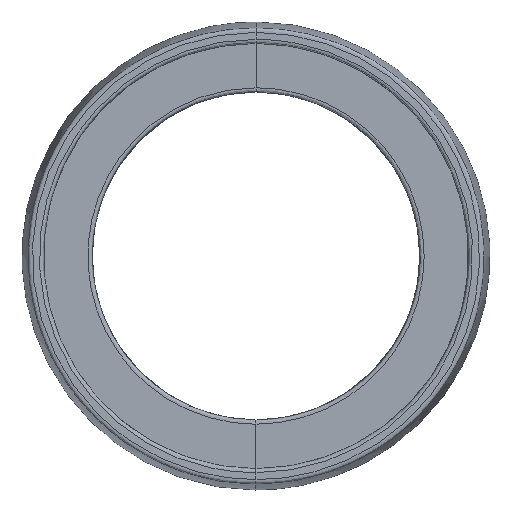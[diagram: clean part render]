
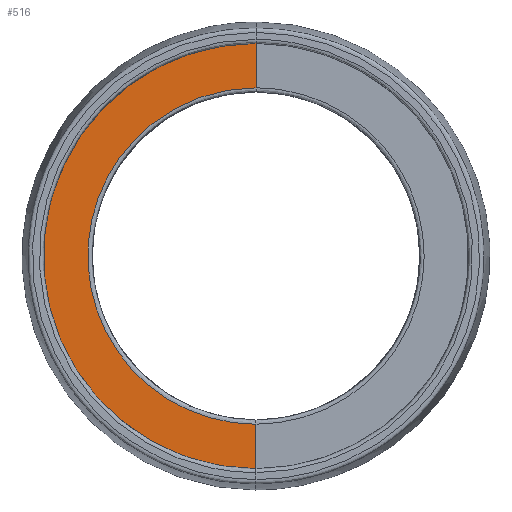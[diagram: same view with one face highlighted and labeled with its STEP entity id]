
A CAD part, front view. The second image highlights one B-rep face of the part: STEP entity #516.
In plain terms, the highlighted free-form (B-spline) face has degree [5, 1] with [21, 2] control points.
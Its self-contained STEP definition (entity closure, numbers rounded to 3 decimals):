
#66=ORIENTED_EDGE('trim curve',*,*,#256,.F.);
#67=ORIENTED_EDGE('trim curve',*,*,#244,.F.);
#68=ORIENTED_EDGE('trim curve',*,*,#258,.F.);
#69=ORIENTED_EDGE('trim curve',*,*,#259,.T.);
#189=VERTEX_POINT('Trimming Point',#1923);
#190=VERTEX_POINT('Trimming Point',#1934);
#198=VERTEX_POINT('Trimming Point',#3555);
#199=VERTEX_POINT('Trimming Point',#3586);
#244=EDGE_CURVE('Edge Curve',#190,#189,#324,.T.);
#256=EDGE_CURVE('Edge Curve',#189,#198,#336,.T.);
#258=EDGE_CURVE('Edge Curve',#199,#190,#338,.T.);
#259=EDGE_CURVE('Edge Curve',#199,#198,#339,.T.);
#324=(
BOUNDED_CURVE()
B_SPLINE_CURVE(5,(#2398,#2399,#2400,#2401,#2402,#2403,#2404,#2405,#2406,
#2407,#2408),.UNSPECIFIED.,.U.,.U.)
B_SPLINE_CURVE_WITH_KNOTS((6,5,6),(0.,1.571,3.142),
 .UNSPECIFIED.)
CURVE()
GEOMETRIC_REPRESENTATION_ITEM()
RATIONAL_B_SPLINE_CURVE((1.,0.883,0.824,0.824,
0.883,1.,0.883,0.824,0.824,
0.883,1.))
REPRESENTATION_ITEM('node')
);
#336=(
BOUNDED_CURVE()
B_SPLINE_CURVE(1,(#3554,#3555),.UNSPECIFIED.,.U.,.U.)
B_SPLINE_CURVE_WITH_KNOTS((2,2),(0.,0.915),.UNSPECIFIED.)
CURVE()
GEOMETRIC_REPRESENTATION_ITEM()
RATIONAL_B_SPLINE_CURVE((1.,1.))
REPRESENTATION_ITEM('node')
);
#338=(
BOUNDED_CURVE()
B_SPLINE_CURVE(1,(#3587,#3588),.UNSPECIFIED.,.U.,.U.)
B_SPLINE_CURVE_WITH_KNOTS((2,2),(0.,0.915),.UNSPECIFIED.)
CURVE()
GEOMETRIC_REPRESENTATION_ITEM()
RATIONAL_B_SPLINE_CURVE((1.,1.))
REPRESENTATION_ITEM('node')
);
#339=(
BOUNDED_CURVE()
B_SPLINE_CURVE(3,(#3631,#3632,#3633,#3634,#3635,#3636,#3637,#3638,#3639,
#3640,#3641,#3642,#3643,#3644,#3645,#3646,#3647,#3648,#3649,#3650,#3651,
#3652,#3653,#3654,#3655),.UNSPECIFIED.,.U.,.U.)
B_SPLINE_CURVE_WITH_KNOTS((4,3,3,3,3,3,3,3,4),(-2.637,-2.206,
-1.982,-1.828,-1.319,-1.203,
-0.664,-0.625,0.),.UNSPECIFIED.)
CURVE()
GEOMETRIC_REPRESENTATION_ITEM()
RATIONAL_B_SPLINE_CURVE((1.,0.979,0.979,1.,0.993,
0.993,1.,0.997,0.997,1.,0.97,
0.97,1.,0.999,0.999,1.,0.965,
0.965,1.,1.,1.,1.,0.955,
0.955,1.))
REPRESENTATION_ITEM('node')
);
#396=EDGE_LOOP('trim boundary',(#66,#67,#68,#69));
#436=FACE_OUTER_BOUND('Boundary Edges',#396,.T.);
#476=(
BOUNDED_SURFACE()
B_SPLINE_SURFACE(5,1,((#3589,#3590),(#3591,#3592),(#3593,#3594),(#3595,#3596),
(#3597,#3598),(#3599,#3600),(#3601,#3602),(#3603,#3604),(#3605,#3606),(#3607,
#3608),(#3609,#3610),(#3611,#3612),(#3613,#3614),(#3615,#3616),(#3617,#3618),
(#3619,#3620),(#3621,#3622),(#3623,#3624),(#3625,#3626),(#3627,#3628),(#3629,
#3630)),.UNSPECIFIED.,.U.,.U.,.U.)
B_SPLINE_SURFACE_WITH_KNOTS((6,5,5,5,6),(2,2),(0.,1.571,3.142,
4.712,6.283),(0.,1.),.UNSPECIFIED.)
GEOMETRIC_REPRESENTATION_ITEM()
RATIONAL_B_SPLINE_SURFACE(((1.,1.),(0.883,0.883),
(0.824,0.824),(0.824,0.824),
(0.883,0.883),(1.,1.),(0.883,0.883),
(0.824,0.824),(0.824,0.824),
(0.883,0.883),(1.,1.),(0.883,0.883),
(0.824,0.824),(0.824,0.824),
(0.883,0.883),(1.,1.),(0.883,0.883),
(0.824,0.824),(0.824,0.824),
(0.883,0.883),(1.,1.)))
REPRESENTATION_ITEM('trim region')
SURFACE()
);
#516=ADVANCED_FACE('trim region',(#436),#476,.T.);
#1923=CARTESIAN_POINT('CVs',(0.,-2.823,-10.93));
#1934=CARTESIAN_POINT('CVs',(0.,-2.823,10.93));
#2398=CARTESIAN_POINT('CVs',(0.,-2.823,10.93));
#2399=CARTESIAN_POINT('CVs',(-3.502,-2.823,10.93));
#2400=CARTESIAN_POINT('CVs',(-6.952,-2.823,9.604));
#2401=CARTESIAN_POINT('CVs',(-9.604,-2.823,6.952));
#2402=CARTESIAN_POINT('CVs',(-10.93,-2.823,3.502));
#2403=CARTESIAN_POINT('CVs',(-10.93,-2.823,0.));
#2404=CARTESIAN_POINT('CVs',(-10.93,-2.823,-3.502));
#2405=CARTESIAN_POINT('CVs',(-9.604,-2.823,-6.952));
#2406=CARTESIAN_POINT('CVs',(-6.952,-2.823,-9.604));
#2407=CARTESIAN_POINT('CVs',(-3.502,-2.823,-10.93));
#2408=CARTESIAN_POINT('CVs',(0.,-2.823,-10.93));
#3554=CARTESIAN_POINT('CVs',(0.,-2.823,-10.93));
#3555=CARTESIAN_POINT('CVs',(0.,-2.823,-8.642));
#3586=CARTESIAN_POINT('CVs',(0.,-2.823,8.642));
#3587=CARTESIAN_POINT('CVs',(0.,-2.823,8.642));
#3588=CARTESIAN_POINT('CVs',(0.,-2.823,10.93));
#3589=CARTESIAN_POINT('CVs',(0.,-2.823,10.93));
#3590=CARTESIAN_POINT('CVs',(0.,-2.823,8.43));
#3591=CARTESIAN_POINT('CVs',(3.502,-2.823,10.93));
#3592=CARTESIAN_POINT('CVs',(2.701,-2.823,8.43));
#3593=CARTESIAN_POINT('CVs',(6.952,-2.823,9.604));
#3594=CARTESIAN_POINT('CVs',(5.362,-2.823,7.407));
#3595=CARTESIAN_POINT('CVs',(9.604,-2.823,6.952));
#3596=CARTESIAN_POINT('CVs',(7.407,-2.823,5.362));
#3597=CARTESIAN_POINT('CVs',(10.93,-2.823,3.502));
#3598=CARTESIAN_POINT('CVs',(8.43,-2.823,2.701));
#3599=CARTESIAN_POINT('CVs',(10.93,-2.823,0.));
#3600=CARTESIAN_POINT('CVs',(8.43,-2.823,0.));
#3601=CARTESIAN_POINT('CVs',(10.93,-2.823,-3.502));
#3602=CARTESIAN_POINT('CVs',(8.43,-2.823,-2.701));
#3603=CARTESIAN_POINT('CVs',(9.604,-2.823,-6.952));
#3604=CARTESIAN_POINT('CVs',(7.407,-2.823,-5.362));
#3605=CARTESIAN_POINT('CVs',(6.952,-2.823,-9.604));
#3606=CARTESIAN_POINT('CVs',(5.362,-2.823,-7.407));
#3607=CARTESIAN_POINT('CVs',(3.502,-2.823,-10.93));
#3608=CARTESIAN_POINT('CVs',(2.701,-2.823,-8.43));
#3609=CARTESIAN_POINT('CVs',(0.,-2.823,-10.93));
#3610=CARTESIAN_POINT('CVs',(0.,-2.823,-8.43));
#3611=CARTESIAN_POINT('CVs',(-3.502,-2.823,-10.93));
#3612=CARTESIAN_POINT('CVs',(-2.701,-2.823,-8.43));
#3613=CARTESIAN_POINT('CVs',(-6.952,-2.823,-9.604));
#3614=CARTESIAN_POINT('CVs',(-5.362,-2.823,-7.407));
#3615=CARTESIAN_POINT('CVs',(-9.604,-2.823,-6.952));
#3616=CARTESIAN_POINT('CVs',(-7.407,-2.823,-5.362));
#3617=CARTESIAN_POINT('CVs',(-10.93,-2.823,-3.502));
#3618=CARTESIAN_POINT('CVs',(-8.43,-2.823,-2.701));
#3619=CARTESIAN_POINT('CVs',(-10.93,-2.823,0.));
#3620=CARTESIAN_POINT('CVs',(-8.43,-2.823,0.));
#3621=CARTESIAN_POINT('CVs',(-10.93,-2.823,3.502));
#3622=CARTESIAN_POINT('CVs',(-8.43,-2.823,2.701));
#3623=CARTESIAN_POINT('CVs',(-9.604,-2.823,6.952));
#3624=CARTESIAN_POINT('CVs',(-7.407,-2.823,5.362));
#3625=CARTESIAN_POINT('CVs',(-6.952,-2.823,9.604));
#3626=CARTESIAN_POINT('CVs',(-5.362,-2.823,7.407));
#3627=CARTESIAN_POINT('CVs',(-3.502,-2.823,10.93));
#3628=CARTESIAN_POINT('CVs',(-2.701,-2.823,8.43));
#3629=CARTESIAN_POINT('CVs',(0.,-2.823,10.93));
#3630=CARTESIAN_POINT('CVs',(0.,-2.823,8.43));
#3631=CARTESIAN_POINT('CVs',(0.,-2.823,8.642));
#3632=CARTESIAN_POINT('CVs',(-1.46,-2.823,8.642));
#3633=CARTESIAN_POINT('CVs',(-2.874,-2.823,8.28));
#3634=CARTESIAN_POINT('CVs',(-4.154,-2.823,7.579));
#3635=CARTESIAN_POINT('CVs',(-4.861,-2.823,7.191));
#3636=CARTESIAN_POINT('CVs',(-5.508,-2.823,6.708));
#3637=CARTESIAN_POINT('CVs',(-6.081,-2.823,6.14));
#3638=CARTESIAN_POINT('CVs',(-6.478,-2.823,5.748));
#3639=CARTESIAN_POINT('CVs',(-6.834,-2.823,5.319));
#3640=CARTESIAN_POINT('CVs',(-7.147,-2.823,4.858));
#3641=CARTESIAN_POINT('CVs',(-8.129,-2.823,3.413));
#3642=CARTESIAN_POINT('CVs',(-8.642,-2.823,1.745));
#3643=CARTESIAN_POINT('CVs',(-8.643,-2.823,0.));
#3644=CARTESIAN_POINT('CVs',(-8.643,-2.823,-0.366));
#3645=CARTESIAN_POINT('CVs',(-8.619,-2.823,-0.732));
#3646=CARTESIAN_POINT('CVs',(-8.573,-2.823,-1.095));
#3647=CARTESIAN_POINT('CVs',(-8.33,-2.823,-2.997));
#3648=CARTESIAN_POINT('CVs',(-7.489,-2.823,-4.72));
#3649=CARTESIAN_POINT('CVs',(-6.14,-2.823,-6.082));
#3650=CARTESIAN_POINT('CVs',(-6.041,-2.823,-6.182));
#3651=CARTESIAN_POINT('CVs',(-5.939,-2.823,-6.28));
#3652=CARTESIAN_POINT('CVs',(-5.835,-2.823,-6.375));
#3653=CARTESIAN_POINT('CVs',(-4.223,-2.823,-7.851));
#3654=CARTESIAN_POINT('CVs',(-2.186,-2.823,-8.642));
#3655=CARTESIAN_POINT('CVs',(0.,-2.823,-8.642));
